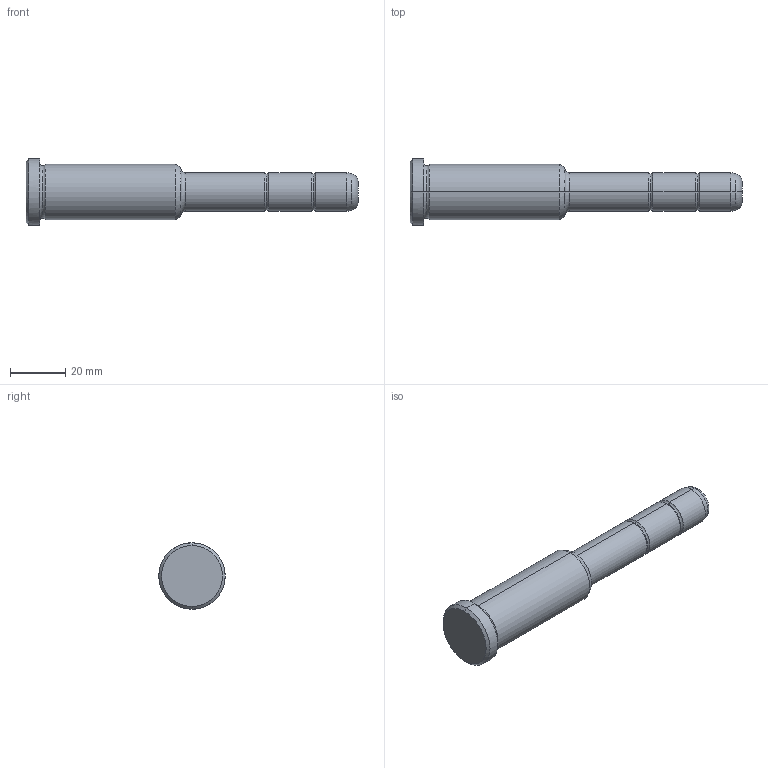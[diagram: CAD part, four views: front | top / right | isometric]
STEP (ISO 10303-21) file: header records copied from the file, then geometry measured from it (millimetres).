
FILE_DESCRIPTION(('CATIA V5 STEP Exchange'),'2;1');
FILE_NAME('C:\Users\Utente\Desktop\IO LAVORO\3D X SITO CF\X SITO\PLASTICA\351\351-14X56X120.stp','2021-08-18T10:48:17+00:00',('none'),('none'),'CATIA Version 5 Release 20 GA (IN-10)','CATIA V5 STEP AP203','none');
FILE_SCHEMA(('CONFIG_CONTROL_DESIGN'));
Length unit declared in the file: millimetre
Products named in the file (1): 351-14X56X120
Bounding box: 120 x 24 x 24 mm (x, y, z)
Volume: 27835.5 mm3; surface area: 7138 mm2
Topology: 1 solids, 1 shells, 36 faces, 102 edges, 70 vertices
Faces by surface type: torus 16, cylinder 10, cone 6, plane 4
Entity records: 1292 total; most frequent: CARTESIAN_POINT 321, ORIENTED_EDGE 204, DIRECTION 166, AXIS2_PLACEMENT_3D 115, EDGE_CURVE 102, CIRCLE 78, VERTEX_POINT 70, EDGE_LOOP 38
